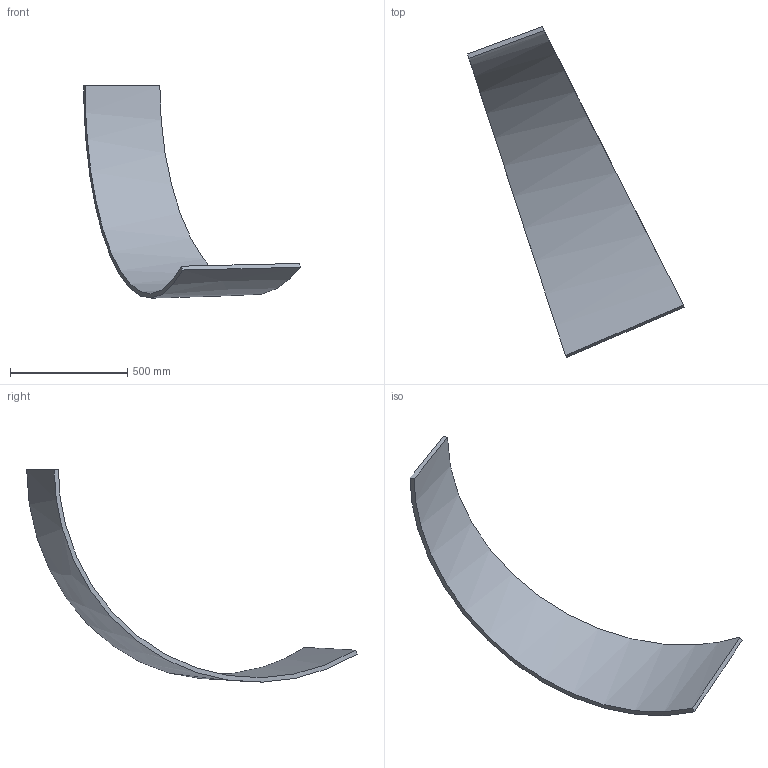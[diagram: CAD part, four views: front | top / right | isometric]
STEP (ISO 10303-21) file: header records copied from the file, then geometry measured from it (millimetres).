
FILE_DESCRIPTION (( 'STEP AP214' ), '1' );
FILE_NAME ('Section 11-A.STEP', '2025-01-09T19:43:25', ( '' ), ( '' ), 'SwSTEP 2.0', 'SolidWorks 2024', '' );
FILE_SCHEMA (( 'AUTOMOTIVE_DESIGN' ));
Length unit declared in the file: inch
Products named in the file (1): Section 11-A
Bounding box: 925.57 x 1411.89 x 906.12 mm (x, y, z)
Volume: 14929801.4 mm3; surface area: 1655188.9 mm2
Topology: 1 solids, 1 shells, 6 faces, 12 edges, 8 vertices
Faces by surface type: bspline 6
Entity records: 315 total; most frequent: CARTESIAN_POINT 201, ORIENTED_EDGE 24, B_SPLINE_CURVE_WITH_KNOTS 12, EDGE_CURVE 12, VERTEX_POINT 8, ADVANCED_FACE 6, EDGE_LOOP 6, B_SPLINE_SURFACE_WITH_KNOTS 6
